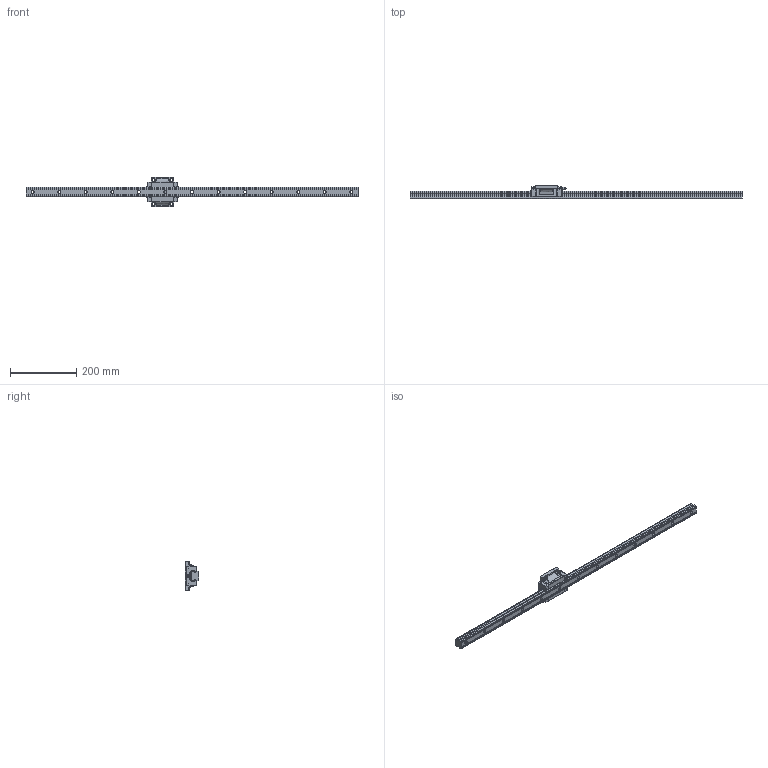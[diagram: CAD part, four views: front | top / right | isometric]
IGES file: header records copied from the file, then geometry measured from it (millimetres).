
Start section: SolidWorks IGES file using analytic representation for surfaces
Global section: file name: C:\Users\tsuch\OneDrive\デスクトップ\EG30関連修正(3D)\EGH30F.IGS; native system: SolidWorks 2019; preprocessor: SolidWorks 2019; author: tsuch; date: 210705.155340; units: millimetre
Bounding box: 1000 x 42 x 90 mm (x, y, z)
Surface area: 155514.4 mm2 (no closed solid volume)
Topology: 0 solids, 0 shells, 591 faces, 6811 edges, 6811 vertices
Faces by surface type: bspline 373, revolution 218
